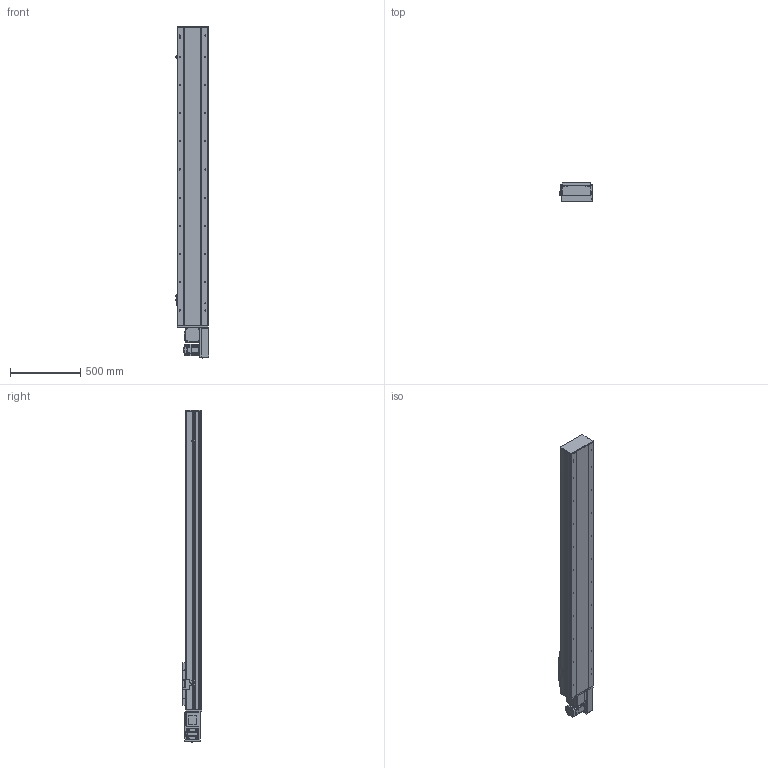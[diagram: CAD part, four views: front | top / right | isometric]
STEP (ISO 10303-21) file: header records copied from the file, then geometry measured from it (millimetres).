
FILE_DESCRIPTION (( 'STEP AP214' ), '1' );
FILE_NAME ('TPE22-L40-1700-L-T75-C4.STEP', '2023-04-12T10:04:56', ( '' ), ( '' ), 'SwSTEP 2.0', 'SolidWorks 2020', '' );
FILE_SCHEMA (( 'AUTOMOTIVE_DESIGN' ));
Length unit declared in the file: millimetre
Products named in the file (10): 葩璃 TPT22-L-009 萇儂啣^TPE22-L40-L-T75-C4; 葩璃 TPE22-L-007 々湍釱^TPE22-L40-L-T75-C4; 葩璃 MSMD08PC_P75^TPE22-L40-L-T75-C4; 葩璃 TPE22-L-001 菁釱MZ-220-01^TPE22-L40-L-T75-C4; 葩璃 TPE22-L-002 耜裔ZTMZ-220-04^TPE22-L40-L-T75-C4; 葩璃 TPE22 賑雄殤^TPE22-L40-L-T75-C4; hexagon head bolts-full thread gb_GB_FASTENER_BOLT_STBAB A M5X16-N; 葩璃 pm-t65-672^TPE22-L40-L-T75-C4; 葩璃 詩湍150^TPE22-L40-L-T75-C4; TPE22-L40-1700-L-T75-C4
Assembly tree (12 placements, depth 2):
  TPE22-L40-1700-L-T75-C4
    葩璃 TPE22-L-001 菁釱MZ-220-01^TPE22-L40-L-T75-C4
    葩璃 TPE22-L-002 耜裔ZTMZ-220-04^TPE22-L40-L-T75-C4  x2
    葩璃 詩湍150^TPE22-L40-L-T75-C4
    葩璃 TPE22-L-007 々湍釱^TPE22-L40-L-T75-C4
    葩璃 TPT22-L-009 萇儂啣^TPE22-L40-L-T75-C4
    葩璃 TPE22 賑雄殤^TPE22-L40-L-T75-C4
    葩璃 pm-t65-672^TPE22-L40-L-T75-C4  x3
    葩璃 MSMD08PC_P75^TPE22-L40-L-T75-C4
    hexagon head bolts-full thread gb_GB_FASTENER_BOLT_STBAB A M5X16-N
Bounding box: 239.2 x 138 x 2355.65 mm (x, y, z)
Volume: 25108256.5 mm3; surface area: 3641642.7 mm2
Topology: 22 solids, 22 shells, 1773 faces, 4659 edges, 2965 vertices
Faces by surface type: plane 1039, cylinder 584, cone 120, bspline 30
Entity records: 50162 total; most frequent: CARTESIAN_POINT 10339, DIRECTION 7890, ORIENTED_EDGE 7782, EDGE_CURVE 3891, VECTOR 2648, LINE 2648, AXIS2_PLACEMENT_3D 2621, VERTEX_POINT 2509
